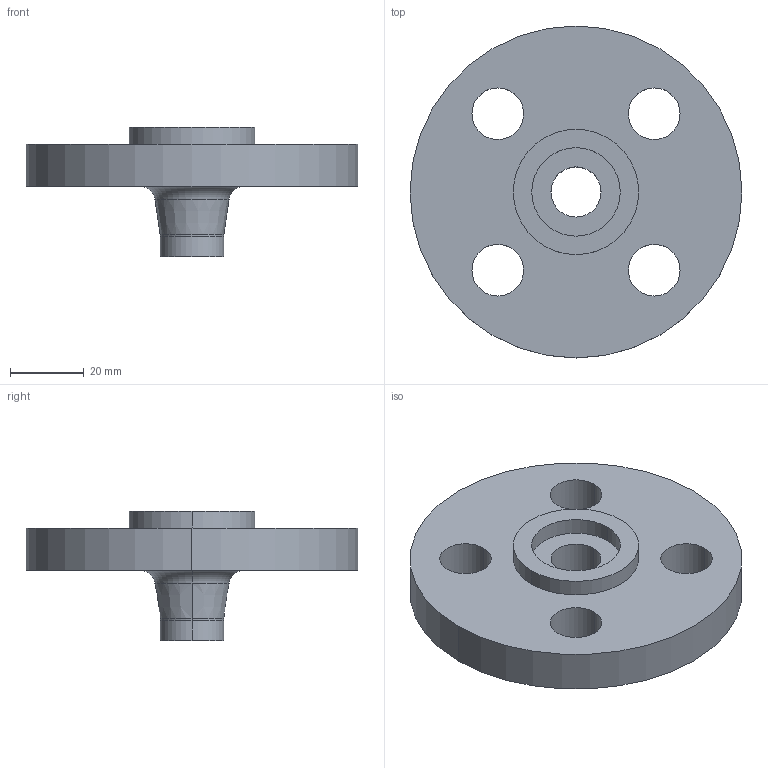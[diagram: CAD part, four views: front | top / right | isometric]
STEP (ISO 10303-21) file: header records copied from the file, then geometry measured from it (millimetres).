
FILE_DESCRIPTION (( 'STEP AP214' ), '1' );
FILE_NAME ('PN40 DN10 Type 11 - Type C Face.STEP', '2018-12-29T05:12:14', ( '' ), ( '' ), 'SwSTEP 2.0', 'SolidWorks 2019', '' );
FILE_SCHEMA (( 'AUTOMOTIVE_DESIGN' ));
Length unit declared in the file: millimetre
Products named in the file (1): PN40 DN10 Type 11 - Type C Face
Bounding box: 90 x 90 x 35 mm (x, y, z)
Volume: 69033 mm3; surface area: 19524.1 mm2
Topology: 1 solids, 1 shells, 29 faces, 66 edges, 42 vertices
Faces by surface type: cylinder 18, plane 5, torus 4, cone 2
Entity records: 892 total; most frequent: DIRECTION 172, CARTESIAN_POINT 138, ORIENTED_EDGE 132, AXIS2_PLACEMENT_3D 76, EDGE_CURVE 66, CIRCLE 46, VERTEX_POINT 42, EDGE_LOOP 42
